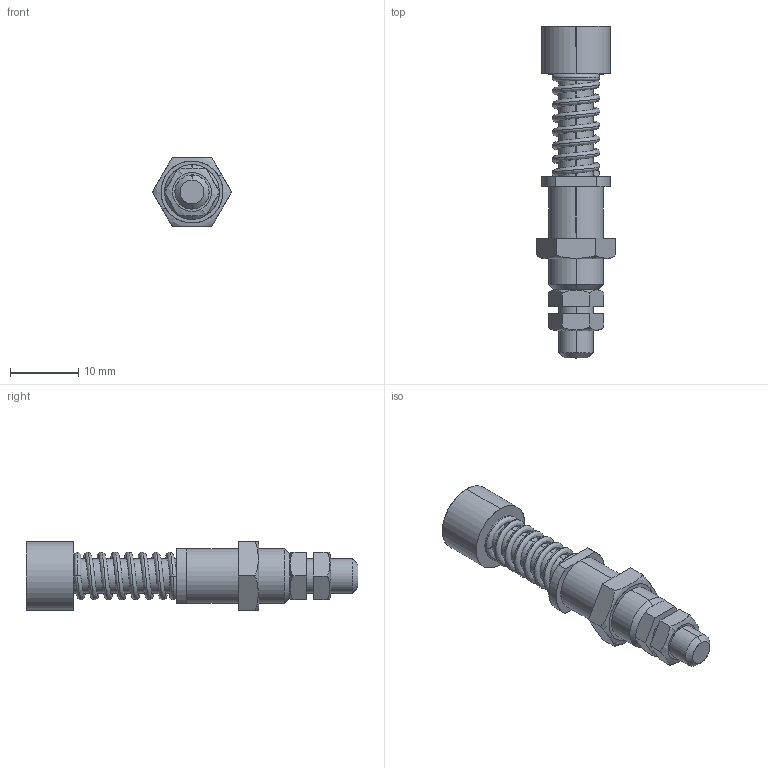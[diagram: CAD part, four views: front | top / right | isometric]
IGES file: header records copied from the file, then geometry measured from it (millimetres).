
Start section: SolidWorks IGES file using analytic representation for surfaces
Global section: file name: \\CODA-VM-SBS\RedirectedFolders\georged\My Documents\CODA FILES NEW\SPECIALIST TEST PRODUCTS\ULTRA HIGH CURRENT TEST PROBES\HD-PA8\HD-PA8FS-10.IGS; native system: SolidWorks 2022; preprocessor: SolidWorks 2022; author: GeorgeD; date: 240125.104733; units: millimetre
Bounding box: 11.55 x 48.5 x 10 mm (x, y, z)
Surface area: 2793.2 mm2 (no closed solid volume)
Topology: 0 solids, 0 shells, 67 faces, 1078 edges, 1078 vertices
Faces by surface type: bspline 47, revolution 20
